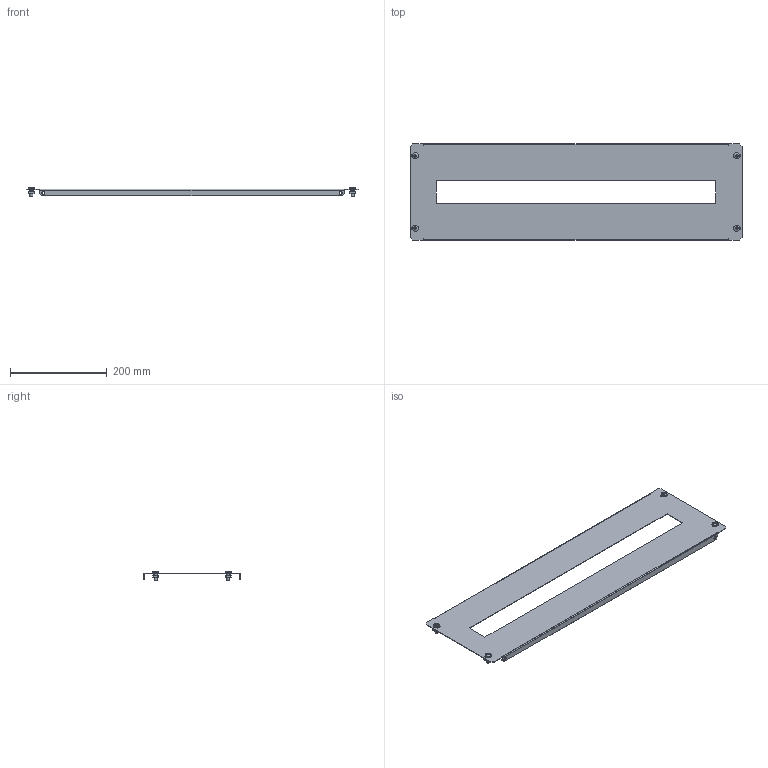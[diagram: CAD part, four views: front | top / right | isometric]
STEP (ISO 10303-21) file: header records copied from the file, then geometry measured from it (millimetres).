
FILE_DESCRIPTION (( 'STEP AP203' ), '1' );
FILE_NAME ('MA1.401.060002.01.00 Ïëàñòðîí ñ âûðåçîì äëÿ ìîäóëüíûõ óñòðîéñòâ Â200 Ø800 ìì EKF AleSta-FPFU2080.STEP', '2024-12-02T12:51:47', ( '' ), ( '' ), 'SwSTEP 2.0', 'SolidWorks 2021', '' );
FILE_SCHEMA (( 'CONFIG_CONTROL_DESIGN' ));
Length unit declared in the file: millimetre
Products named in the file (6): MA1.401.060002.01.01 Ïëàñòðîí ñ âûðåçîì äëÿ ìîäóëüíûõ óñòðîéñòâ Â200 Ø600 ìì EKF AleSta_Copy of ˜=800; pan head cross recess screw_din_DIN EN ISO 7045 - M6 x 16 - Z - 16N; Îáîëî÷êà ãàéêè çàêëàäíîé; Ãàéêà çàêëàäíàÿ; MA1.401.060002.01.00 Ïëàñòðîí ñ âûðåçîì äëÿ ìîäóëüíûõ óñòðîéñòâ Â200 Ø800 ìì EKF AleSta-FPFU2080; Ãàéêà çàêëàäêàÿ Ì6
Assembly tree (11 placements, depth 3):
  MA1.401.060002.01.00 Ïëàñòðîí ñ âûðåçîì äëÿ ìîäóëüíûõ óñòðîéñòâ Â200 Ø800 ìì EKF AleSta-FPFU2080
    MA1.401.060002.01.01 Ïëàñòðîí ñ âûðåçîì äëÿ ìîäóëüíûõ óñòðîéñòâ Â200 Ø600 ìì EKF AleSta_Copy of ˜=800
    Ãàéêà çàêëàäíàÿ  x4
      Îáîëî÷êà ãàéêè çàêëàäíîé
      Ãàéêà çàêëàäêàÿ Ì6
    pan head cross recess screw_din_DIN EN ISO 7045 - M6 x 16 - Z - 16N  x4
Bounding box: 686 x 199 x 20.48 mm (x, y, z)
Volume: 130224.2 mm3; surface area: 260533.4 mm2
Topology: 13 solids, 13 shells, 694 faces, 1546 edges, 882 vertices
Faces by surface type: plane 446, cylinder 144, bspline 64, cone 28, torus 8, sphere 4
Full cylindrical faces by diameter (mm): 6 x8, 6.5 x4, 7 x4, 12 x4
Entity records: 7540 total; most frequent: CARTESIAN_POINT 1693, DIRECTION 1030, ORIENTED_EDGE 1024, EDGE_CURVE 512, LINE 364, VECTOR 364, AXIS2_PLACEMENT_3D 333, VERTEX_POINT 308
